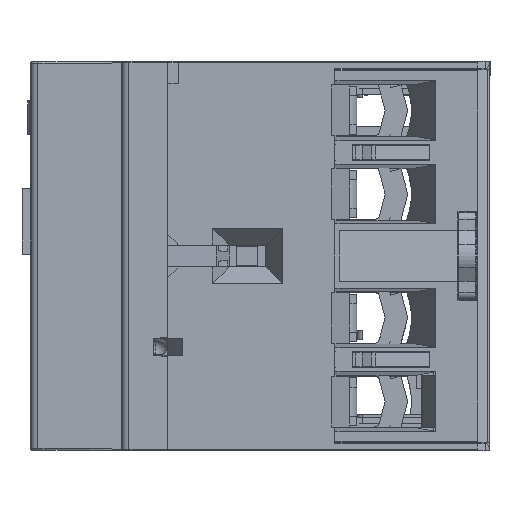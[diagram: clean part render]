
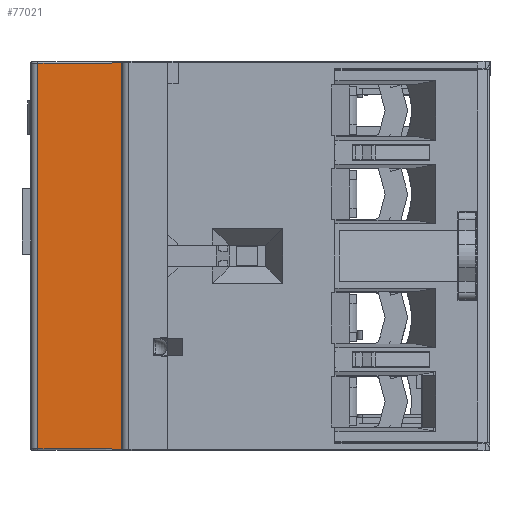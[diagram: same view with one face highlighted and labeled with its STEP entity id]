
A CAD part, left-side view. The second image highlights one B-rep face of the part: STEP entity #77021.
In plain terms, the highlighted planar face has unit normal (1, -0.009, 0).
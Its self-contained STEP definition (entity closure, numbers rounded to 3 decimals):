
#6646=LINE('',#138942,#17105);
#6740=LINE('',#139211,#17199);
#6741=LINE('',#139228,#17200);
#6742=LINE('',#139230,#17201);
#6743=LINE('',#139232,#17202);
#6744=LINE('',#139233,#17203);
#6745=LINE('',#139235,#17204);
#17105=VECTOR('',#111924,1000.);
#17199=VECTOR('',#112082,1000.);
#17200=VECTOR('',#112083,1000.);
#17201=VECTOR('',#112084,1000.);
#17202=VECTOR('',#112085,1000.);
#17203=VECTOR('',#112086,1000.);
#17204=VECTOR('',#112087,1000.);
#23170=PLANE('',#98129);
#26374=B_SPLINE_CURVE_WITH_KNOTS('',3,(#139214,#139215,#139216,#139217,
#139218,#139219,#139220,#139221,#139222,#139223,#139224,#139225,#139226),
 .UNSPECIFIED.,.F.,.F.,(4,1,1,1,1,1,1,1,1,1,4),(0.,0.1,0.2,0.3,0.4,0.5,
0.6,0.7,0.8,0.9,1.),.UNSPECIFIED.);
#26375=B_SPLINE_CURVE_WITH_KNOTS('',3,(#139237,#139238,#139239,#139240,
#139241,#139242,#139243,#139244,#139245,#139246,#139247,#139248,#139249),
 .UNSPECIFIED.,.F.,.F.,(4,1,1,1,1,1,1,1,1,1,4),(0.,0.1,0.2,0.3,0.4,0.5,
0.6,0.7,0.8,0.9,1.),.UNSPECIFIED.);
#36396=ORIENTED_EDGE('',*,*,#51878,.F.);
#36397=ORIENTED_EDGE('',*,*,#51879,.F.);
#36398=ORIENTED_EDGE('',*,*,#51880,.F.);
#36399=ORIENTED_EDGE('',*,*,#51881,.F.);
#36400=ORIENTED_EDGE('',*,*,#51882,.F.);
#36401=ORIENTED_EDGE('',*,*,#51769,.T.);
#36402=ORIENTED_EDGE('',*,*,#51883,.F.);
#36403=ORIENTED_EDGE('',*,*,#51884,.F.);
#36404=ORIENTED_EDGE('',*,*,#51885,.F.);
#51769=EDGE_CURVE('',#62898,#62899,#6646,.T.);
#51878=EDGE_CURVE('',#62979,#62980,#6740,.T.);
#51879=EDGE_CURVE('',#62981,#62979,#26374,.T.);
#51880=EDGE_CURVE('',#62982,#62981,#6741,.T.);
#51881=EDGE_CURVE('',#62983,#62982,#6742,.T.);
#51882=EDGE_CURVE('',#62898,#62983,#6743,.T.);
#51883=EDGE_CURVE('',#62984,#62899,#6744,.T.);
#51884=EDGE_CURVE('',#62985,#62984,#6745,.T.);
#51885=EDGE_CURVE('',#62980,#62985,#26375,.T.);
#62898=VERTEX_POINT('',#138943);
#62899=VERTEX_POINT('',#138944);
#62979=VERTEX_POINT('',#139212);
#62980=VERTEX_POINT('',#139213);
#62981=VERTEX_POINT('',#139227);
#62982=VERTEX_POINT('',#139229);
#62983=VERTEX_POINT('',#139231);
#62984=VERTEX_POINT('',#139234);
#62985=VERTEX_POINT('',#139236);
#70107=EDGE_LOOP('',(#36396,#36397,#36398,#36399,#36400,#36401,#36402,#36403,
#36404));
#73586=FACE_BOUND('',#70107,.T.);
#77021=ADVANCED_FACE('',(#73586),#23170,.F.);
#98129=AXIS2_PLACEMENT_3D('',#139210,#112080,#112081);
#111924=DIRECTION('',(0.,0.,1.));
#112080=DIRECTION('',(-1.,0.009,0.));
#112081=DIRECTION('',(0.,0.,1.));
#112082=DIRECTION('',(-0.005,-0.534,0.845));
#112083=DIRECTION('',(0.,0.,1.));
#112084=DIRECTION('',(-0.009,-1.,-0.004));
#112085=DIRECTION('',(0.,0.,-1.));
#112086=DIRECTION('',(0.009,1.,-0.004));
#112087=DIRECTION('',(0.,0.,1.));
#138942=CARTESIAN_POINT('',(-22.4,17.809,100.));
#138943=CARTESIAN_POINT('',(-22.4,17.809,73.529));
#138944=CARTESIAN_POINT('',(-22.4,17.809,126.472));
#139210=CARTESIAN_POINT('',(-22.511,5.059,72.416));
#139211=CARTESIAN_POINT('',(-22.508,5.361,99.918));
#139212=CARTESIAN_POINT('',(-22.508,5.413,99.835));
#139213=CARTESIAN_POINT('',(-22.509,5.309,100.));
#139214=CARTESIAN_POINT('',(-22.5,6.3,97.563));
#139215=CARTESIAN_POINT('',(-22.5,6.3,97.645));
#139216=CARTESIAN_POINT('',(-22.5,6.289,97.81));
#139217=CARTESIAN_POINT('',(-22.5,6.249,98.054));
#139218=CARTESIAN_POINT('',(-22.501,6.188,98.294));
#139219=CARTESIAN_POINT('',(-22.502,6.109,98.528));
#139220=CARTESIAN_POINT('',(-22.502,6.015,98.757));
#139221=CARTESIAN_POINT('',(-22.503,5.909,98.98));
#139222=CARTESIAN_POINT('',(-22.504,5.794,99.199));
#139223=CARTESIAN_POINT('',(-22.505,5.671,99.414));
#139224=CARTESIAN_POINT('',(-22.507,5.543,99.626));
#139225=CARTESIAN_POINT('',(-22.507,5.457,99.766));
#139226=CARTESIAN_POINT('',(-22.508,5.413,99.835));
#139227=CARTESIAN_POINT('',(-22.5,6.3,97.563));
#139228=CARTESIAN_POINT('',(-22.5,6.3,85.52));
#139229=CARTESIAN_POINT('',(-22.5,6.3,73.477));
#139230=CARTESIAN_POINT('',(-22.45,12.054,73.502));
#139231=CARTESIAN_POINT('',(-22.4,17.809,73.528));
#139232=CARTESIAN_POINT('',(-22.4,17.809,100.));
#139233=CARTESIAN_POINT('',(-22.45,12.054,126.498));
#139234=CARTESIAN_POINT('',(-22.5,6.3,126.523));
#139235=CARTESIAN_POINT('',(-22.5,6.3,114.48));
#139236=CARTESIAN_POINT('',(-22.5,6.3,102.437));
#139237=CARTESIAN_POINT('',(-22.509,5.309,100.));
#139238=CARTESIAN_POINT('',(-22.508,5.356,100.075));
#139239=CARTESIAN_POINT('',(-22.507,5.451,100.226));
#139240=CARTESIAN_POINT('',(-22.506,5.592,100.452));
#139241=CARTESIAN_POINT('',(-22.505,5.727,100.682));
#139242=CARTESIAN_POINT('',(-22.504,5.856,100.916));
#139243=CARTESIAN_POINT('',(-22.503,5.975,101.154));
#139244=CARTESIAN_POINT('',(-22.502,6.081,101.399));
#139245=CARTESIAN_POINT('',(-22.501,6.172,101.65));
#139246=CARTESIAN_POINT('',(-22.501,6.242,101.907));
#139247=CARTESIAN_POINT('',(-22.5,6.288,102.17));
#139248=CARTESIAN_POINT('',(-22.5,6.3,102.348));
#139249=CARTESIAN_POINT('',(-22.5,6.3,102.437));
